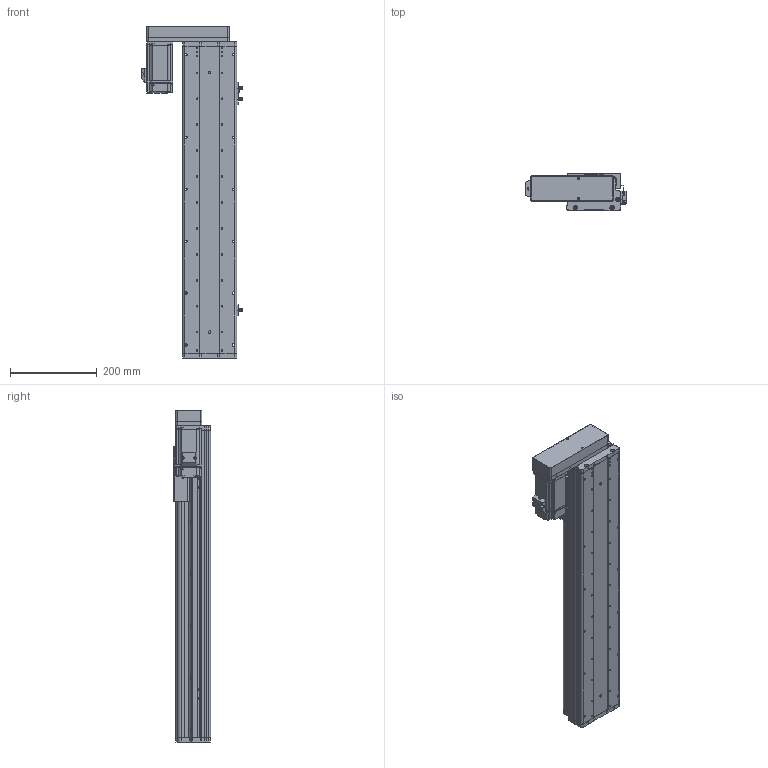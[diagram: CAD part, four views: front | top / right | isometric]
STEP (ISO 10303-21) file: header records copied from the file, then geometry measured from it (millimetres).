
FILE_DESCRIPTION (( 'STEP AP214' ), '1' );
FILE_NAME ('KSD125S-S500-ML-CM.STEP', '2017-10-21T08:33:50', ( '微软用户' ), ( '微软中国' ), 'SwSTEP 2.0', 'SolidWorks 2014', '' );
FILE_SCHEMA (( 'AUTOMOTIVE_DESIGN' ));
Length unit declared in the file: millimetre
Products named in the file (16): KSD125S-500俴最佪裝菁啣; KSD125S-500俴最佪裝滅鳥裔; 125-帣傷啣1; KSD125S-S500-ML-CM; 覜茼え68遵圉猾敕; U倰嫖萇EEㄜSX672; HTPA30S3M150_A_H6_a佪裝蚚; HTPA30S3M150_A_H6_a萇儂蚚; 125宽马达安装板连板左右折丝杆; 125悵誘欶酘衵殏; MHMD042G1CA_2_03; 拸萇儂釱滅袉菜; 拸萇儂釱滅袉菜-1; U倰嫖萇假蚾璃; ヶ傷啣-125遵耀郪; KSD125-賑雄釱1
Assembly tree (19 placements, depth 2):
  KSD125S-S500-ML-CM
    125-帣傷啣1
    KSD125S-500俴最佪裝滅鳥裔
    KSD125S-500俴最佪裝菁啣
    KSD125-賑雄釱1
    ヶ傷啣-125遵耀郪
    U倰嫖萇假蚾璃  x3
    拸萇儂釱滅袉菜-1
    拸萇儂釱滅袉菜
    MHMD042G1CA_2_03
    125悵誘欶酘衵殏
    125宽马达安装板连板左右折丝杆
    HTPA30S3M150_A_H6_a萇儂蚚
    HTPA30S3M150_A_H6_a佪裝蚚
    U倰嫖萇EEㄜSX672  x3
    覜茼え68遵圉猾敕
Bounding box: 234.2 x 86 x 767.5 mm (x, y, z)
Volume: 2643236.7 mm3; surface area: 916158.2 mm2
Topology: 18 solids, 21 shells, 2183 faces, 6327 edges, 4173 vertices
Faces by surface type: cylinder 1362, plane 680, cone 119, bspline 22
Entity records: 76853 total; most frequent: CARTESIAN_POINT 15637, DIRECTION 12001, ORIENTED_EDGE 11162, EDGE_CURVE 5659, AXIS2_PLACEMENT_3D 4635, VERTEX_POINT 3765, LINE 2731, VECTOR 2731
